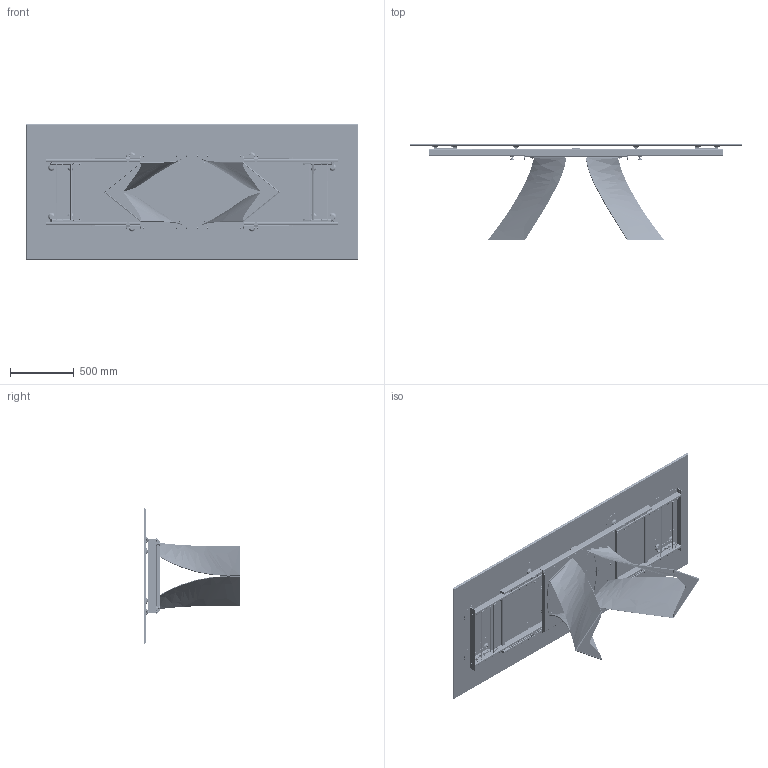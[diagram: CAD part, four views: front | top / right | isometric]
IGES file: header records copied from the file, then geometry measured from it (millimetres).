
Start section: SolidWorks IGES file using analytic representation for surfaces
Global section: file name: Y:\eforma\TECNICO\SOLIDWORKS\E-FORMA\1-TAVOLI\TWIST ALLUNGABILE\08 modelli 3D web\TW31G_Twist 180-260_Open_Ceramic.IGS; native system: SolidWorks 2022; preprocessor: SolidWorks 2022; author: eforma.tech; date: 240801.154908; units: millimetre
Bounding box: 2600 x 749.55 x 1060 mm (x, y, z)
Volume: 48657402.1 mm3; surface area: 18202115.1 mm2
Topology: 53 solids, 53 shells, 8558 faces, 88102 edges, 86766 vertices
Faces by surface type: revolution 4582, bspline 3454, plane 522
